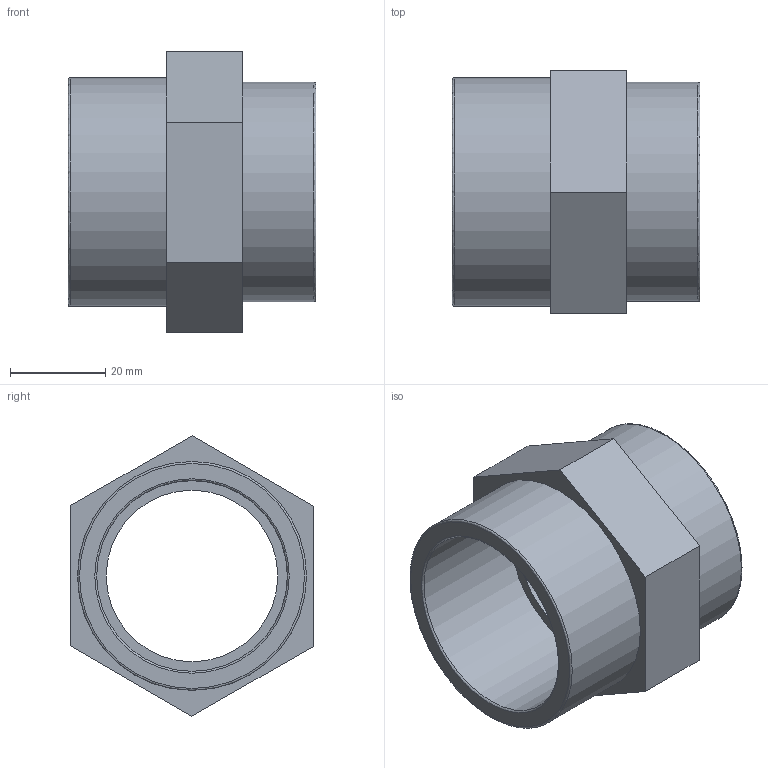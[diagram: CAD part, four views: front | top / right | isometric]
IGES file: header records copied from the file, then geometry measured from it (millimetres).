
Global section: file name: 050102040013.ipt; native system: Autodesk Inventor 2015; preprocessor: unknown; author: KIM; date: 20171207.164100; units: millimetre
Bounding box: 52 x 51.08 x 58.89 mm (x, y, z)
Volume: 35931.6 mm3; surface area: 16946.5 mm2
Topology: 1 solids, 1 shells, 21 faces, 55 edges, 40 vertices
Faces by surface type: plane 12, revolution 7, cylinder 2
Full cylindrical faces by diameter (mm): 46 x1, 48 x1
